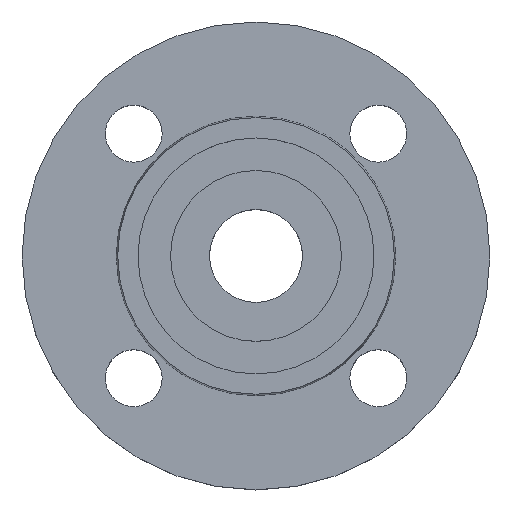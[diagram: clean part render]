
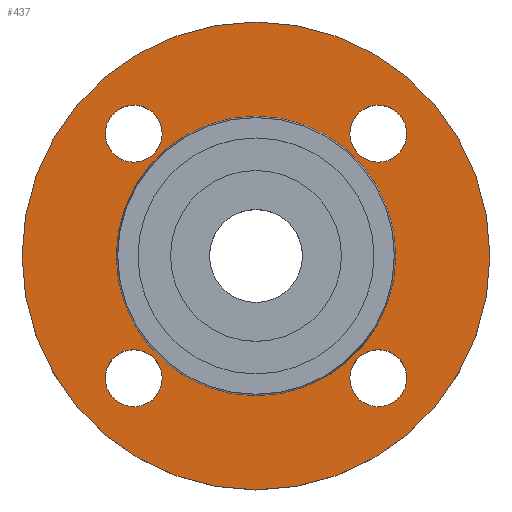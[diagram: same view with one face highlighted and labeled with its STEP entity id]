
A CAD part, top view. The second image highlights one B-rep face of the part: STEP entity #437.
In plain terms, the highlighted planar face has unit normal (0, 0, 1).
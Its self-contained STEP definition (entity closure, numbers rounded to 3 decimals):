
#7 = DIRECTION ( 'NONE',  ( 1., 0., 0. ) ) ;
#16 = DIRECTION ( 'NONE',  ( 0., 0., -1. ) ) ;
#19 = CARTESIAN_POINT ( 'NONE',  ( 30.052, 30.052, -2. ) ) ;
#29 = EDGE_CURVE ( 'NONE', #726, #761, #240, .T. ) ;
#36 = EDGE_CURVE ( 'NONE', #735, #727, #309, .T. ) ;
#39 = CARTESIAN_POINT ( 'NONE',  ( -37.052, 30.052, -2. ) ) ;
#40 = EDGE_CURVE ( 'NONE', #522, #769, #540, .T. ) ;
#78 = AXIS2_PLACEMENT_3D ( 'NONE', #19, #16, #7 ) ;
#85 = AXIS2_PLACEMENT_3D ( 'NONE', #807, #808, #809 ) ;
#99 = CIRCLE ( 'NONE', #78, 7. ) ;
#100 = DIRECTION ( 'NONE',  ( -1., 0., 0. ) ) ;
#108 = CARTESIAN_POINT ( 'NONE',  ( 0., 0., -2. ) ) ;
#109 = DIRECTION ( 'NONE',  ( 0., 0., -1. ) ) ;
#124 = AXIS2_PLACEMENT_3D ( 'NONE', #108, #109, #100 ) ;
#127 = EDGE_CURVE ( 'NONE', #778, #649, #294, .T. ) ;
#131 = AXIS2_PLACEMENT_3D ( 'NONE', #801, #802, #803 ) ;
#153 = CARTESIAN_POINT ( 'NONE',  ( 23.052, -30.052, -2. ) ) ;
#156 = CARTESIAN_POINT ( 'NONE',  ( 23.052, 30.052, -2. ) ) ;
#170 = FACE_BOUND ( 'NONE', #765, .T. ) ;
#172 = FACE_BOUND ( 'NONE', #518, .T. ) ;
#176 = FACE_BOUND ( 'NONE', #773, .T. ) ;
#179 = FACE_BOUND ( 'NONE', #673, .T. ) ;
#180 = CARTESIAN_POINT ( 'NONE',  ( 30.052, 30.052, -2. ) ) ;
#183 = DIRECTION ( 'NONE',  ( 1., 0., 0. ) ) ;
#187 = DIRECTION ( 'NONE',  ( 1., 0., 0. ) ) ;
#190 = PLANE ( 'NONE',  #271 ) ;
#191 = CARTESIAN_POINT ( 'NONE',  ( 30.052, -30.052, -2. ) ) ;
#192 = CIRCLE ( 'NONE', #124, 34.353 ) ;
#193 = DIRECTION ( 'NONE',  ( 0., 0., 1. ) ) ;
#199 = FACE_OUTER_BOUND ( 'NONE', #774, .T. ) ;
#204 = FACE_BOUND ( 'NONE', #677, .T. ) ;
#209 = AXIS2_PLACEMENT_3D ( 'NONE', #211, #225, #490 ) ;
#211 = CARTESIAN_POINT ( 'NONE',  ( -30.052, -30.052, -2. ) ) ;
#215 = CARTESIAN_POINT ( 'NONE',  ( 34.353, 0., -2. ) ) ;
#216 = DIRECTION ( 'NONE',  ( 0., 0., -1. ) ) ;
#217 = DIRECTION ( 'NONE',  ( 1., 0., 0. ) ) ;
#220 = DIRECTION ( 'NONE',  ( 0., 0., -1. ) ) ;
#225 = DIRECTION ( 'NONE',  ( 0., 0., -1. ) ) ;
#236 = CARTESIAN_POINT ( 'NONE',  ( 34.353, 0., -2. ) ) ;
#240 = CIRCLE ( 'NONE', #131, 7. ) ;
#251 = AXIS2_PLACEMENT_3D ( 'NONE', #804, #805, #806 ) ;
#259 = AXIS2_PLACEMENT_3D ( 'NONE', #820, #821, #822 ) ;
#261 = AXIS2_PLACEMENT_3D ( 'NONE', #180, #216, #183 ) ;
#269 = CIRCLE ( 'NONE', #443, 7. ) ;
#271 = AXIS2_PLACEMENT_3D ( 'NONE', #215, #193, #217 ) ;
#277 = CARTESIAN_POINT ( 'NONE',  ( -30.052, 30.052, -2. ) ) ;
#286 = AXIS2_PLACEMENT_3D ( 'NONE', #277, #290, #551 ) ;
#288 = EDGE_CURVE ( 'NONE', #782, #742, #355, .T. ) ;
#290 = DIRECTION ( 'NONE',  ( 0., 0., -1. ) ) ;
#292 = CARTESIAN_POINT ( 'NONE',  ( -23.052, 30.052, -2. ) ) ;
#294 = CIRCLE ( 'NONE', #259, 7. ) ;
#298 = CIRCLE ( 'NONE', #363, 57.5 ) ;
#307 = CARTESIAN_POINT ( 'NONE',  ( 57.5, 0., -2. ) ) ;
#309 = CIRCLE ( 'NONE', #251, 34.353 ) ;
#313 = EDGE_CURVE ( 'NONE', #742, #782, #298, .T. ) ;
#354 = AXIS2_PLACEMENT_3D ( 'NONE', #392, #393, #396 ) ;
#355 = CIRCLE ( 'NONE', #354, 57.5 ) ;
#363 = AXIS2_PLACEMENT_3D ( 'NONE', #412, #414, #415 ) ;
#392 = CARTESIAN_POINT ( 'NONE',  ( 0., 0., -2. ) ) ;
#393 = DIRECTION ( 'NONE',  ( 0., 0., -1. ) ) ;
#395 = CARTESIAN_POINT ( 'NONE',  ( 37.052, -30.052, -2. ) ) ;
#396 = DIRECTION ( 'NONE',  ( -1., 0., 0. ) ) ;
#412 = CARTESIAN_POINT ( 'NONE',  ( 0., 0., -2. ) ) ;
#414 = DIRECTION ( 'NONE',  ( 0., 0., -1. ) ) ;
#415 = DIRECTION ( 'NONE',  ( -1., 0., 0. ) ) ;
#431 = EDGE_CURVE ( 'NONE', #761, #726, #456, .T. ) ;
#434 = EDGE_CURVE ( 'NONE', #520, #775, #514, .T. ) ;
#437 = ADVANCED_FACE ( 'NONE', ( #170, #179, #176, #204, #172, #199 ), #190, .T. ) ;
#442 = EDGE_CURVE ( 'NONE', #769, #522, #269, .T. ) ;
#443 = AXIS2_PLACEMENT_3D ( 'NONE', #191, #220, #187 ) ;
#454 = CARTESIAN_POINT ( 'NONE',  ( -34.353, 0., -2. ) ) ;
#456 = CIRCLE ( 'NONE', #209, 7. ) ;
#485 = CARTESIAN_POINT ( 'NONE',  ( 37.052, 30.052, -2. ) ) ;
#490 = DIRECTION ( 'NONE',  ( 1., 0., 0. ) ) ;
#514 = CIRCLE ( 'NONE', #261, 7. ) ;
#516 = CARTESIAN_POINT ( 'NONE',  ( -57.5, 0., -2. ) ) ;
#518 = EDGE_LOOP ( 'NONE', ( #623, #624 ) ) ;
#520 = VERTEX_POINT ( 'NONE', #156 ) ;
#522 = VERTEX_POINT ( 'NONE', #153 ) ;
#540 = CIRCLE ( 'NONE', #85, 7. ) ;
#542 = EDGE_CURVE ( 'NONE', #727, #735, #192, .T. ) ;
#551 = DIRECTION ( 'NONE',  ( 1., 0., 0. ) ) ;
#610 = ORIENTED_EDGE ( 'NONE', *, *, #442, .T. ) ;
#611 = ORIENTED_EDGE ( 'NONE', *, *, #40, .T. ) ;
#612 = ORIENTED_EDGE ( 'NONE', *, *, #29, .T. ) ;
#613 = ORIENTED_EDGE ( 'NONE', *, *, #431, .T. ) ;
#615 = ORIENTED_EDGE ( 'NONE', *, *, #127, .T. ) ;
#617 = ORIENTED_EDGE ( 'NONE', *, *, #789, .T. ) ;
#618 = ORIENTED_EDGE ( 'NONE', *, *, #674, .T. ) ;
#619 = CIRCLE ( 'NONE', #286, 7. ) ;
#622 = ORIENTED_EDGE ( 'NONE', *, *, #434, .T. ) ;
#623 = ORIENTED_EDGE ( 'NONE', *, *, #36, .T. ) ;
#624 = ORIENTED_EDGE ( 'NONE', *, *, #542, .T. ) ;
#625 = ORIENTED_EDGE ( 'NONE', *, *, #313, .F. ) ;
#626 = ORIENTED_EDGE ( 'NONE', *, *, #288, .F. ) ;
#649 = VERTEX_POINT ( 'NONE', #39 ) ;
#673 = EDGE_LOOP ( 'NONE', ( #612, #613 ) ) ;
#674 = EDGE_CURVE ( 'NONE', #775, #520, #99, .T. ) ;
#677 = EDGE_LOOP ( 'NONE', ( #618, #622 ) ) ;
#706 = CARTESIAN_POINT ( 'NONE',  ( -23.052, -30.052, -2. ) ) ;
#726 = VERTEX_POINT ( 'NONE', #706 ) ;
#727 = VERTEX_POINT ( 'NONE', #236 ) ;
#735 = VERTEX_POINT ( 'NONE', #454 ) ;
#742 = VERTEX_POINT ( 'NONE', #307 ) ;
#761 = VERTEX_POINT ( 'NONE', #860 ) ;
#765 = EDGE_LOOP ( 'NONE', ( #610, #611 ) ) ;
#769 = VERTEX_POINT ( 'NONE', #395 ) ;
#773 = EDGE_LOOP ( 'NONE', ( #615, #617 ) ) ;
#774 = EDGE_LOOP ( 'NONE', ( #625, #626 ) ) ;
#775 = VERTEX_POINT ( 'NONE', #485 ) ;
#778 = VERTEX_POINT ( 'NONE', #292 ) ;
#782 = VERTEX_POINT ( 'NONE', #516 ) ;
#789 = EDGE_CURVE ( 'NONE', #649, #778, #619, .T. ) ;
#801 = CARTESIAN_POINT ( 'NONE',  ( -30.052, -30.052, -2. ) ) ;
#802 = DIRECTION ( 'NONE',  ( 0., 0., -1. ) ) ;
#803 = DIRECTION ( 'NONE',  ( 1., 0., 0. ) ) ;
#804 = CARTESIAN_POINT ( 'NONE',  ( 0., 0., -2. ) ) ;
#805 = DIRECTION ( 'NONE',  ( 0., 0., -1. ) ) ;
#806 = DIRECTION ( 'NONE',  ( -1., 0., 0. ) ) ;
#807 = CARTESIAN_POINT ( 'NONE',  ( 30.052, -30.052, -2. ) ) ;
#808 = DIRECTION ( 'NONE',  ( 0., 0., -1. ) ) ;
#809 = DIRECTION ( 'NONE',  ( 1., 0., 0. ) ) ;
#820 = CARTESIAN_POINT ( 'NONE',  ( -30.052, 30.052, -2. ) ) ;
#821 = DIRECTION ( 'NONE',  ( 0., 0., -1. ) ) ;
#822 = DIRECTION ( 'NONE',  ( 1., 0., 0. ) ) ;
#860 = CARTESIAN_POINT ( 'NONE',  ( -37.052, -30.052, -2. ) ) ;
